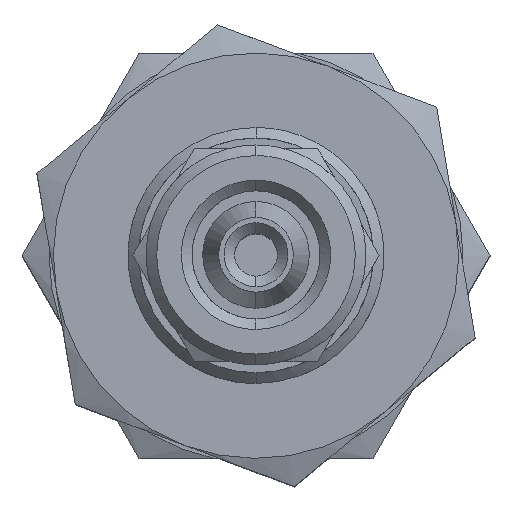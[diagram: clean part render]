
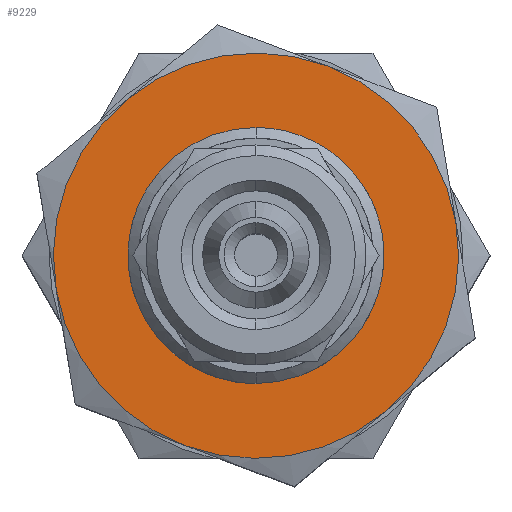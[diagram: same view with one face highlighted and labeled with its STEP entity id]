
A CAD part, top view. The second image highlights one B-rep face of the part: STEP entity #9229.
In plain terms, the highlighted planar face has unit normal (0, 0, 1).
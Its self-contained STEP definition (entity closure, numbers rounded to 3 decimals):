
#207 = AXIS2_PLACEMENT_3D ( 'NONE', #4229, #9264, #1954 ) ;
#228 = EDGE_CURVE ( 'NONE', #9591, #7053, #10426, .T. ) ;
#531 = CARTESIAN_POINT ( 'NONE',  ( -8.323, 15.296, 58.438 ) ) ;
#569 = DIRECTION ( 'NONE',  ( 0., -1., 0. ) ) ;
#578 = DIRECTION ( 'NONE',  ( 0.936, -0.351, 0. ) ) ;
#843 = DIRECTION ( 'NONE',  ( 0., 0., 1. ) ) ;
#1104 = CIRCLE ( 'NONE', #4266, 9.5 ) ;
#1296 = VERTEX_POINT ( 'NONE', #9356 ) ;
#1474 = PLANE ( 'NONE',  #3935 ) ;
#1540 = CIRCLE ( 'NONE', #207, 9.5 ) ;
#1679 = DIRECTION ( 'NONE',  ( 0.351, 0.936, 0. ) ) ;
#1942 = ORIENTED_EDGE ( 'NONE', *, *, #10652, .F. ) ;
#1954 = DIRECTION ( 'NONE',  ( 0.351, 0.936, 0. ) ) ;
#2589 = DIRECTION ( 'NONE',  ( 0., 0., -1. ) ) ;
#2593 = DIRECTION ( 'NONE',  ( 0., 0., -1. ) ) ;
#2684 = CARTESIAN_POINT ( 'NONE',  ( 3.335, 8.895, 58.438 ) ) ;
#2853 = VERTEX_POINT ( 'NONE', #9957 ) ;
#2896 = AXIS2_PLACEMENT_3D ( 'NONE', #11110, #843, #13149 ) ;
#2924 = EDGE_CURVE ( 'NONE', #10311, #7973, #1104, .T. ) ;
#3588 = AXIS2_PLACEMENT_3D ( 'NONE', #4216, #11447, #12480 ) ;
#3935 = AXIS2_PLACEMENT_3D ( 'NONE', #531, #2593, #569 ) ;
#4005 = ORIENTED_EDGE ( 'NONE', *, *, #7693, .F. ) ;
#4165 = FACE_BOUND ( 'NONE', #10812, .T. ) ;
#4210 = ORIENTED_EDGE ( 'NONE', *, *, #5206, .F. ) ;
#4216 = CARTESIAN_POINT ( 'NONE',  ( 0., 0., 58.438 ) ) ;
#4229 = CARTESIAN_POINT ( 'NONE',  ( 0., 0., 58.438 ) ) ;
#4266 = AXIS2_PLACEMENT_3D ( 'NONE', #11907, #2589, #1679 ) ;
#4717 = CARTESIAN_POINT ( 'NONE',  ( -3.335, -8.895, 58.438 ) ) ;
#4766 = DIRECTION ( 'NONE',  ( 0., 0., -1. ) ) ;
#4775 = CIRCLE ( 'NONE', #5201, 9.5 ) ;
#5080 = CARTESIAN_POINT ( 'NONE',  ( 0., 0., 58.438 ) ) ;
#5196 = EDGE_LOOP ( 'NONE', ( #7051, #12577, #1942, #4210, #12478, #12398 ) ) ;
#5201 = AXIS2_PLACEMENT_3D ( 'NONE', #6897, #8089, #11037 ) ;
#5206 = EDGE_CURVE ( 'NONE', #9074, #13247, #1540, .T. ) ;
#5251 = DIRECTION ( 'NONE',  ( 0.351, 0.936, 0. ) ) ;
#5414 = CIRCLE ( 'NONE', #2896, 5.375 ) ;
#6070 = CARTESIAN_POINT ( 'NONE',  ( 9.371, 1.559, 58.438 ) ) ;
#6178 = ORIENTED_EDGE ( 'NONE', *, *, #228, .F. ) ;
#6250 = EDGE_CURVE ( 'NONE', #1296, #2853, #10249, .T. ) ;
#6706 = DIRECTION ( 'NONE',  ( 0.351, 0.936, 0. ) ) ;
#6897 = CARTESIAN_POINT ( 'NONE',  ( 0., 0., 58.438 ) ) ;
#7051 = ORIENTED_EDGE ( 'NONE', *, *, #10923, .F. ) ;
#7053 = VERTEX_POINT ( 'NONE', #11071 ) ;
#7693 = EDGE_CURVE ( 'NONE', #7053, #9591, #5414, .T. ) ;
#7966 = AXIS2_PLACEMENT_3D ( 'NONE', #12880, #4766, #6706 ) ;
#7973 = VERTEX_POINT ( 'NONE', #6070 ) ;
#8089 = DIRECTION ( 'NONE',  ( 0., 0., -1. ) ) ;
#9074 = VERTEX_POINT ( 'NONE', #12405 ) ;
#9229 = ADVANCED_FACE ( 'NONE', ( #9992, #4165 ), #1474, .F. ) ;
#9264 = DIRECTION ( 'NONE',  ( 0., 0., -1. ) ) ;
#9356 = CARTESIAN_POINT ( 'NONE',  ( -9.371, -1.559, 58.438 ) ) ;
#9466 = CIRCLE ( 'NONE', #7966, 9.5 ) ;
#9591 = VERTEX_POINT ( 'NONE', #12614 ) ;
#9957 = CARTESIAN_POINT ( 'NONE',  ( -6.036, 7.336, 58.438 ) ) ;
#9992 = FACE_OUTER_BOUND ( 'NONE', #5196, .T. ) ;
#10249 = CIRCLE ( 'NONE', #3588, 9.5 ) ;
#10303 = AXIS2_PLACEMENT_3D ( 'NONE', #12051, #10985, #578 ) ;
#10311 = VERTEX_POINT ( 'NONE', #2684 ) ;
#10426 = CIRCLE ( 'NONE', #10303, 5.375 ) ;
#10652 = EDGE_CURVE ( 'NONE', #13247, #1296, #9466, .T. ) ;
#10812 = EDGE_LOOP ( 'NONE', ( #4005, #6178 ) ) ;
#10923 = EDGE_CURVE ( 'NONE', #2853, #10311, #12531, .T. ) ;
#10985 = DIRECTION ( 'NONE',  ( 0., 0., 1. ) ) ;
#11037 = DIRECTION ( 'NONE',  ( 0.351, 0.936, 0. ) ) ;
#11071 = CARTESIAN_POINT ( 'NONE',  ( -5.033, 1.887, 58.438 ) ) ;
#11110 = CARTESIAN_POINT ( 'NONE',  ( 0., 0., 58.438 ) ) ;
#11447 = DIRECTION ( 'NONE',  ( 0., 0., -1. ) ) ;
#11907 = CARTESIAN_POINT ( 'NONE',  ( 0., 0., 58.438 ) ) ;
#12051 = CARTESIAN_POINT ( 'NONE',  ( 0., 0., 58.438 ) ) ;
#12282 = EDGE_CURVE ( 'NONE', #7973, #9074, #4775, .T. ) ;
#12398 = ORIENTED_EDGE ( 'NONE', *, *, #2924, .F. ) ;
#12405 = CARTESIAN_POINT ( 'NONE',  ( 6.036, -7.336, 58.438 ) ) ;
#12472 = DIRECTION ( 'NONE',  ( 0., 0., -1. ) ) ;
#12478 = ORIENTED_EDGE ( 'NONE', *, *, #12282, .F. ) ;
#12480 = DIRECTION ( 'NONE',  ( 0.351, 0.936, 0. ) ) ;
#12531 = CIRCLE ( 'NONE', #13039, 9.5 ) ;
#12577 = ORIENTED_EDGE ( 'NONE', *, *, #6250, .F. ) ;
#12614 = CARTESIAN_POINT ( 'NONE',  ( 5.033, -1.887, 58.438 ) ) ;
#12880 = CARTESIAN_POINT ( 'NONE',  ( 0., 0., 58.438 ) ) ;
#13039 = AXIS2_PLACEMENT_3D ( 'NONE', #5080, #12472, #5251 ) ;
#13149 = DIRECTION ( 'NONE',  ( 0.936, -0.351, 0. ) ) ;
#13247 = VERTEX_POINT ( 'NONE', #4717 ) ;
